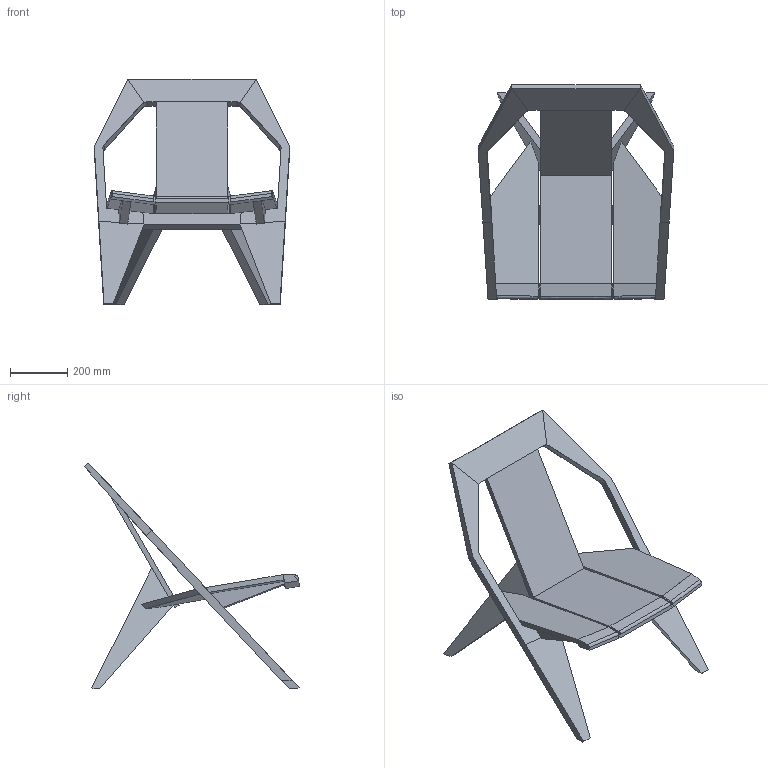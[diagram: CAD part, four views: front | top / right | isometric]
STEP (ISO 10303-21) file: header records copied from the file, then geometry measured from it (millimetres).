
FILE_DESCRIPTION(/* description */ (''),/* implementation_level */ '2;1');
FILE_NAME(/* name */ 'MC04_M~2',/* time_stamp */ '2021-04-10T10:32:08+02:00',/* author */ (''),/* organization */ (''),/* preprocessor_version */ 'ST-DEVELOPER v16.5',/* originating_system */ '',/* authorisation */ '');
FILE_SCHEMA (('AUTOMOTIVE_DESIGN'));
Length unit declared in the file: millimetre
Products named in the file (1): Document
Bounding box: 685.19 x 752.89 x 792.17 mm (x, y, z)
Surface area: 1712622.8 mm2 (no closed solid volume)
Topology: 0 solids, 123 shells, 123 faces, 560 edges, 556 vertices
Faces by surface type: bspline 123
Entity records: 12932 total; most frequent: CARTESIAN_POINT 7744, B_SPLINE_CURVE_WITH_KNOTS 1001, ORIENTED_EDGE 552, PCURVE 552, DEFINITIONAL_REPRESENTATION 552, SURFACE_CURVE 552, EDGE_CURVE 552, VERTEX_POINT 552
